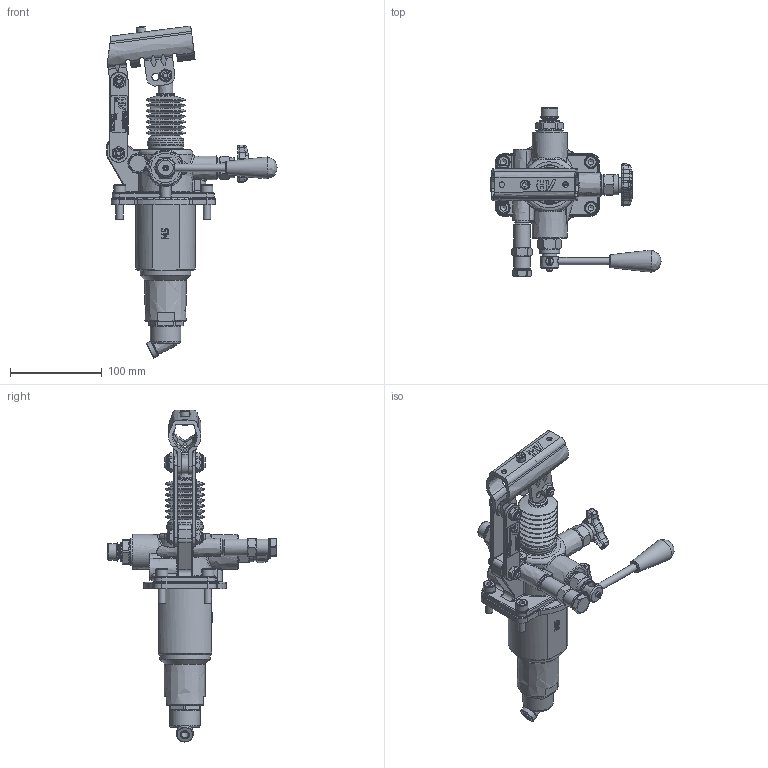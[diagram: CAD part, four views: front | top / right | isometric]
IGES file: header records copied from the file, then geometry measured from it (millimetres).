
Global section: file name: No Iges File Name specified; native system: Autodesk Inventor 2013; preprocessor: AutoDesk Inventor Iges Exporter R2013; author: christian.scardovi; date: 20240329.105132; units: millimetre
Bounding box: 185.5 x 183.5 x 361.27 mm (x, y, z)
Volume: 796131.3 mm3; surface area: 186238.1 mm2
Topology: 3 solids, 3 shells, 1915 faces, 4861 edges, 3042 vertices
Faces by surface type: bspline 1915
